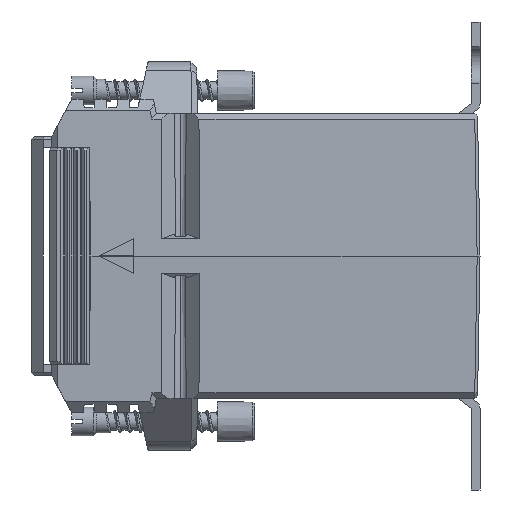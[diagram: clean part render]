
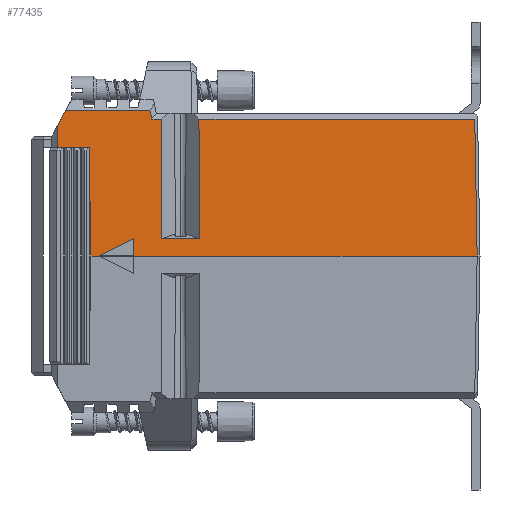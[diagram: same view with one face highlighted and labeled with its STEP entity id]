
A CAD part, left-side view. The second image highlights one B-rep face of the part: STEP entity #77435.
In plain terms, the highlighted planar face has unit normal (-1, 0, 0.018).
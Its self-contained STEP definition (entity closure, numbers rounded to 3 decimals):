
#107 = EDGE_CURVE ( 'NONE', #171, #392, #37499, .T. ) ;
#171 = VERTEX_POINT ( 'NONE', #37744 ) ;
#392 = VERTEX_POINT ( 'NONE', #38717 ) ;
#19581 = ORIENTED_EDGE ( 'NONE', *, *, #77271, .T. ) ;
#27456 = EDGE_CURVE ( 'NONE', #29391, #77323, #51914, .T. ) ;
#27515 = ORIENTED_EDGE ( 'NONE', *, *, #40186, .T. ) ;
#27732 = ORIENTED_EDGE ( 'NONE', *, *, #27456, .T. ) ;
#29020 = VERTEX_POINT ( 'NONE', #53725 ) ;
#29391 = VERTEX_POINT ( 'NONE', #54336 ) ;
#31019 = EDGE_CURVE ( 'NONE', #35899, #29020, #56274, .T. ) ;
#35518 = VERTEX_POINT ( 'NONE', #63164 ) ;
#35519 = VERTEX_POINT ( 'NONE', #63163 ) ;
#35526 = EDGE_CURVE ( 'NONE', #35518, #35519, #63211, .T. ) ;
#35882 = EDGE_CURVE ( 'NONE', #35920, #35909, #63642, .T. ) ;
#35899 = VERTEX_POINT ( 'NONE', #63669 ) ;
#35902 = VERTEX_POINT ( 'NONE', #63665 ) ;
#35909 = VERTEX_POINT ( 'NONE', #63629 ) ;
#35918 = EDGE_CURVE ( 'NONE', #35902, #35899, #63664, .T. ) ;
#35920 = VERTEX_POINT ( 'NONE', #63656 ) ;
#36612 = EDGE_CURVE ( 'NONE', #35519, #35920, #64373, .T. ) ;
#37478 = VECTOR ( 'NONE', #37489, 1000. ) ;
#37489 = DIRECTION ( 'NONE',  ( 0., 1., 0. ) ) ;
#37490 = CARTESIAN_POINT ( 'NONE',  ( -29.581, 25.2, 24. ) ) ;
#37499 = LINE ( 'NONE', #37490, #37478 ) ;
#37744 = CARTESIAN_POINT ( 'NONE',  ( -29.581, 24.254, 24. ) ) ;
#38717 = CARTESIAN_POINT ( 'NONE',  ( -29.581, 26.003, 24. ) ) ;
#40186 = EDGE_CURVE ( 'NONE', #29020, #29391, #64785, .T. ) ;
#40311 = ORIENTED_EDGE ( 'NONE', *, *, #31019, .T. ) ;
#51900 = DIRECTION ( 'NONE',  ( -0.017, -0.005, -1. ) ) ;
#51901 = VECTOR ( 'NONE', #51900, 1000. ) ;
#51913 = CARTESIAN_POINT ( 'NONE',  ( -29.998, 17.623, 0.132 ) ) ;
#51914 = LINE ( 'NONE', #51913, #51901 ) ;
#53725 = CARTESIAN_POINT ( 'NONE',  ( -29.581, -30.581, 24. ) ) ;
#54336 = CARTESIAN_POINT ( 'NONE',  ( -29.581, 17.746, 24. ) ) ;
#56271 = DIRECTION ( 'NONE',  ( 0.017, 0.017, 1. ) ) ;
#56272 = VECTOR ( 'NONE', #56271, 1000. ) ;
#56273 = CARTESIAN_POINT ( 'NONE',  ( -29.977, -30.977, 1.3 ) ) ;
#56274 = LINE ( 'NONE', #56273, #56272 ) ;
#63163 = CARTESIAN_POINT ( 'NONE',  ( -29.668, 37., 19. ) ) ;
#63164 = CARTESIAN_POINT ( 'NONE',  ( -29.668, 42.5, 19. ) ) ;
#63208 = DIRECTION ( 'NONE',  ( 0., -1., 0. ) ) ;
#63209 = VECTOR ( 'NONE', #63208, 1000. ) ;
#63210 = CARTESIAN_POINT ( 'NONE',  ( -29.668, 43.5, 19. ) ) ;
#63211 = LINE ( 'NONE', #63210, #63209 ) ;
#63625 = DIRECTION ( 'NONE',  ( 0., -1., 0. ) ) ;
#63626 = VECTOR ( 'NONE', #63625, 1000. ) ;
#63629 = CARTESIAN_POINT ( 'NONE',  ( -30., 35.168, 0. ) ) ;
#63641 = CARTESIAN_POINT ( 'NONE',  ( -30., 43.5, 0. ) ) ;
#63642 = LINE ( 'NONE', #63641, #63626 ) ;
#63648 = DIRECTION ( 'NONE',  ( 0., -1., 0. ) ) ;
#63649 = VECTOR ( 'NONE', #63648, 1000. ) ;
#63656 = CARTESIAN_POINT ( 'NONE',  ( -30., 36.668, 0. ) ) ;
#63663 = CARTESIAN_POINT ( 'NONE',  ( -30., 43.5, 0. ) ) ;
#63664 = LINE ( 'NONE', #63663, #63649 ) ;
#63665 = CARTESIAN_POINT ( 'NONE',  ( -30., 29.168, 0. ) ) ;
#63669 = CARTESIAN_POINT ( 'NONE',  ( -30., -31., 0. ) ) ;
#64370 = DIRECTION ( 'NONE',  ( -0.017, -0.017, -1. ) ) ;
#64371 = VECTOR ( 'NONE', #64370, 1000. ) ;
#64372 = CARTESIAN_POINT ( 'NONE',  ( -29.998, 36.67, 0.119 ) ) ;
#64373 = LINE ( 'NONE', #64372, #64371 ) ;
#64782 = DIRECTION ( 'NONE',  ( 0., 1., 0. ) ) ;
#64783 = VECTOR ( 'NONE', #64782, 1000. ) ;
#64784 = CARTESIAN_POINT ( 'NONE',  ( -29.581, 25.2, 24. ) ) ;
#64785 = LINE ( 'NONE', #64784, #64783 ) ;
#72320 = AXIS2_PLACEMENT_3D ( 'NONE', #72477, #72730, #72616 ) ;
#72477 = CARTESIAN_POINT ( 'NONE',  ( -30., 43.5, 0. ) ) ;
#72616 = DIRECTION ( 'NONE',  ( 0.017, 0., 1. ) ) ;
#72730 = DIRECTION ( 'NONE',  ( -1., 0., 0.017 ) ) ;
#73057 = CARTESIAN_POINT ( 'NONE',  ( -29.601, 42.5, 22.881 ) ) ;
#73094 = CARTESIAN_POINT ( 'NONE',  ( -29.555, 41.107, 25.5 ) ) ;
#73099 = LINE ( 'NONE', #73108, #73127 ) ;
#73107 = DIRECTION ( 'NONE',  ( -0.015, 0.469, -0.883 ) ) ;
#73108 = CARTESIAN_POINT ( 'NONE',  ( -29.919, 52.205, 4.627 ) ) ;
#73127 = VECTOR ( 'NONE', #73107, 1000. ) ;
#73176 = PLANE ( 'NONE',  #72320 ) ;
#73199 = FACE_OUTER_BOUND ( 'NONE', #77481, .T. ) ;
#73227 = DIRECTION ( 'NONE',  ( 0.017, -0.005, 1. ) ) ;
#73228 = VECTOR ( 'NONE', #73227, 1000. ) ;
#73229 = CARTESIAN_POINT ( 'NONE',  ( -30.002, 24.378, -0.098 ) ) ;
#73230 = LINE ( 'NONE', #73229, #73228 ) ;
#73233 = CARTESIAN_POINT ( 'NONE',  ( -29.948, 17.638, 3. ) ) ;
#73437 = DIRECTION ( 'NONE',  ( -0.017, 0., -1. ) ) ;
#73438 = VECTOR ( 'NONE', #73437, 1000. ) ;
#73439 = CARTESIAN_POINT ( 'NONE',  ( -30., 42.5, 0. ) ) ;
#73440 = LINE ( 'NONE', #73439, #73438 ) ;
#73448 = LINE ( 'NONE', #73484, #73483 ) ;
#73463 = CARTESIAN_POINT ( 'NONE',  ( -29.948, 24.362, 3. ) ) ;
#73475 = DIRECTION ( 'NONE',  ( 0.008, -0.894, 0.447 ) ) ;
#73476 = CARTESIAN_POINT ( 'NONE',  ( -29.555, 60., 25.5 ) ) ;
#73477 = LINE ( 'NONE', #73476, #73536 ) ;
#73482 = DIRECTION ( 'NONE',  ( 0.017, 0.216, 0.976 ) ) ;
#73483 = VECTOR ( 'NONE', #73482, 1000. ) ;
#73484 = CARTESIAN_POINT ( 'NONE',  ( -29.916, 21.751, 4.82 ) ) ;
#73485 = DIRECTION ( 'NONE',  ( -0.017, 0., -1. ) ) ;
#73486 = VECTOR ( 'NONE', #73485, 1000. ) ;
#73487 = CARTESIAN_POINT ( 'NONE',  ( -29.948, 29.168, 3. ) ) ;
#73488 = CARTESIAN_POINT ( 'NONE',  ( -29.948, 29.168, 3. ) ) ;
#73489 = CARTESIAN_POINT ( 'NONE',  ( -29.555, 26.335, 25.5 ) ) ;
#73490 = LINE ( 'NONE', #73487, #73486 ) ;
#73496 = VECTOR ( 'NONE', #73475, 1000. ) ;
#73497 = CARTESIAN_POINT ( 'NONE',  ( -30., 35.168, 0. ) ) ;
#73498 = LINE ( 'NONE', #73497, #73496 ) ;
#73522 = DIRECTION ( 'NONE',  ( 0., 1., 0. ) ) ;
#73523 = VECTOR ( 'NONE', #73522, 1000. ) ;
#73524 = CARTESIAN_POINT ( 'NONE',  ( -29.948, 43.5, 3. ) ) ;
#73531 = LINE ( 'NONE', #73524, #73523 ) ;
#73535 = DIRECTION ( 'NONE',  ( 0., -1., 0. ) ) ;
#73536 = VECTOR ( 'NONE', #73535, 1000. ) ;
#77245 = VERTEX_POINT ( 'NONE', #73057 ) ;
#77271 = EDGE_CURVE ( 'NONE', #77273, #77245, #73099, .T. ) ;
#77273 = VERTEX_POINT ( 'NONE', #73094 ) ;
#77319 = EDGE_CURVE ( 'NONE', #77440, #171, #73230, .T. ) ;
#77323 = VERTEX_POINT ( 'NONE', #73233 ) ;
#77335 = ORIENTED_EDGE ( 'NONE', *, *, #77501, .T. ) ;
#77384 = ORIENTED_EDGE ( 'NONE', *, *, #77319, .T. ) ;
#77426 = ORIENTED_EDGE ( 'NONE', *, *, #35526, .T. ) ;
#77427 = EDGE_CURVE ( 'NONE', #77245, #35518, #73440, .T. ) ;
#77435 = ADVANCED_FACE ( 'NONE', ( #73199 ), #73176, .T. ) ;
#77440 = VERTEX_POINT ( 'NONE', #73463 ) ;
#77470 = ORIENTED_EDGE ( 'NONE', *, *, #77427, .T. ) ;
#77481 = EDGE_LOOP ( 'NONE', ( #77335, #77384, #77490, #77488, #77492, #19581, #77470, #77426, #77484, #77497, #77509, #77496, #77494, #40311, #27515, #27732 ) ) ;
#77484 = ORIENTED_EDGE ( 'NONE', *, *, #36612, .T. ) ;
#77487 = EDGE_CURVE ( 'NONE', #77493, #35902, #73490, .T. ) ;
#77488 = ORIENTED_EDGE ( 'NONE', *, *, #77489, .T. ) ;
#77489 = EDGE_CURVE ( 'NONE', #392, #77491, #73448, .T. ) ;
#77490 = ORIENTED_EDGE ( 'NONE', *, *, #107, .T. ) ;
#77491 = VERTEX_POINT ( 'NONE', #73489 ) ;
#77492 = ORIENTED_EDGE ( 'NONE', *, *, #77498, .F. ) ;
#77493 = VERTEX_POINT ( 'NONE', #73488 ) ;
#77494 = ORIENTED_EDGE ( 'NONE', *, *, #35918, .T. ) ;
#77495 = EDGE_CURVE ( 'NONE', #35909, #77493, #73498, .T. ) ;
#77496 = ORIENTED_EDGE ( 'NONE', *, *, #77487, .T. ) ;
#77497 = ORIENTED_EDGE ( 'NONE', *, *, #35882, .T. ) ;
#77498 = EDGE_CURVE ( 'NONE', #77273, #77491, #73477, .T. ) ;
#77501 = EDGE_CURVE ( 'NONE', #77323, #77440, #73531, .T. ) ;
#77509 = ORIENTED_EDGE ( 'NONE', *, *, #77495, .T. ) ;
